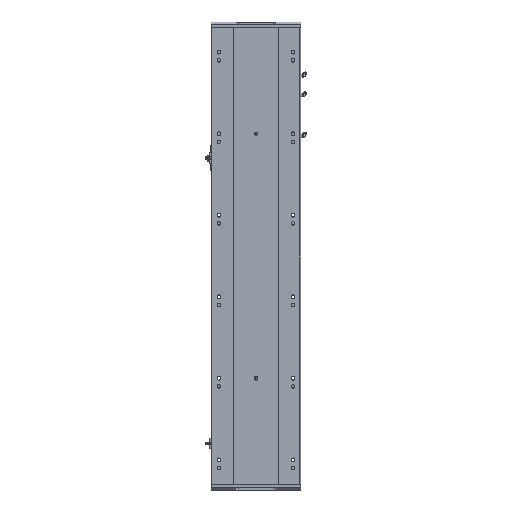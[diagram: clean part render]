
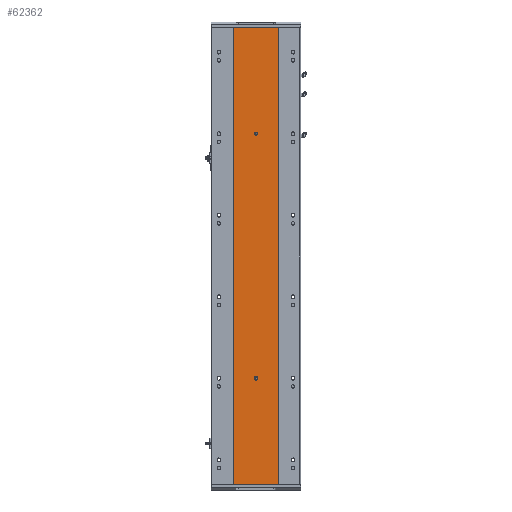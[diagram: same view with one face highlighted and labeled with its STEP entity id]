
A CAD part, front view. The second image highlights one B-rep face of the part: STEP entity #62362.
In plain terms, the highlighted planar face has unit normal (0, -1, 0).
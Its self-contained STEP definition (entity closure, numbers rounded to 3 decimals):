
#7661 = EDGE_LOOP ( 'NONE', ( #147909, #429553, #92586, #47038 ) ) ;
#7694 = VERTEX_POINT ( 'NONE', #138952 ) ;
#8882 = DIRECTION ( 'NONE',  ( 0., 0., -1. ) ) ;
#9765 = EDGE_CURVE ( 'NONE', #385141, #220690, #118551, .T. ) ;
#9941 = VERTEX_POINT ( 'NONE', #423840 ) ;
#12431 = EDGE_CURVE ( 'NONE', #124375, #9941, #181986, .T. ) ;
#24008 = VECTOR ( 'NONE', #139614, 1000. ) ;
#25921 = CARTESIAN_POINT ( 'NONE',  ( 0., 0., 261. ) ) ;
#28853 = DIRECTION ( 'NONE',  ( 0., 0., 1. ) ) ;
#34685 = LINE ( 'NONE', #74253, #24008 ) ;
#36047 = AXIS2_PLACEMENT_3D ( 'NONE', #313228, #378644, #212266 ) ;
#45364 = PLANE ( 'NONE',  #85865 ) ;
#47038 = ORIENTED_EDGE ( 'NONE', *, *, #205541, .T. ) ;
#60331 = ORIENTED_EDGE ( 'NONE', *, *, #12431, .T. ) ;
#62362 = ADVANCED_FACE ( 'NONE', ( #412549, #290273, #93862 ), #45364, .F. ) ;
#62529 = VECTOR ( 'NONE', #8882, 1000. ) ;
#69181 = EDGE_CURVE ( 'NONE', #328764, #284211, #34685, .T. ) ;
#69853 = CIRCLE ( 'NONE', #92990, 4. ) ;
#72901 = AXIS2_PLACEMENT_3D ( 'NONE', #284291, #287232, #253077 ) ;
#74253 = CARTESIAN_POINT ( 'NONE',  ( 0., 0., 1120. ) ) ;
#78951 = CARTESIAN_POINT ( 'NONE',  ( 55., 0., 1120. ) ) ;
#81894 = CARTESIAN_POINT ( 'NONE',  ( -55., 0., 1120. ) ) ;
#85865 = AXIS2_PLACEMENT_3D ( 'NONE', #418045, #314117, #317056 ) ;
#88983 = CARTESIAN_POINT ( 'NONE',  ( 0., 0., 0. ) ) ;
#91372 = CARTESIAN_POINT ( 'NONE',  ( 4., 0., 261. ) ) ;
#92586 = ORIENTED_EDGE ( 'NONE', *, *, #69181, .F. ) ;
#92990 = AXIS2_PLACEMENT_3D ( 'NONE', #25921, #336158, #28853 ) ;
#93827 = ORIENTED_EDGE ( 'NONE', *, *, #413306, .T. ) ;
#93862 = FACE_OUTER_BOUND ( 'NONE', #7661, .T. ) ;
#97379 = VERTEX_POINT ( 'NONE', #340925 ) ;
#102272 = VERTEX_POINT ( 'NONE', #142973 ) ;
#110856 = CARTESIAN_POINT ( 'NONE',  ( 55., 0., 1120. ) ) ;
#113092 = CARTESIAN_POINT ( 'NONE',  ( 0., 0., 856. ) ) ;
#118551 = CIRCLE ( 'NONE', #72901, 4. ) ;
#119645 = EDGE_CURVE ( 'NONE', #294694, #97379, #232949, .T. ) ;
#123685 = CARTESIAN_POINT ( 'NONE',  ( 0., 0., 860. ) ) ;
#124375 = VERTEX_POINT ( 'NONE', #91372 ) ;
#135520 = DIRECTION ( 'NONE',  ( 0., 0., -1. ) ) ;
#138952 = CARTESIAN_POINT ( 'NONE',  ( -4., 0., 259. ) ) ;
#139614 = DIRECTION ( 'NONE',  ( 1., 0., 0. ) ) ;
#139883 = CARTESIAN_POINT ( 'NONE',  ( 4., 0., 1120. ) ) ;
#142973 = CARTESIAN_POINT ( 'NONE',  ( -4., 0., 261. ) ) ;
#146481 = ORIENTED_EDGE ( 'NONE', *, *, #9765, .F. ) ;
#147909 = ORIENTED_EDGE ( 'NONE', *, *, #119645, .T. ) ;
#155791 = DIRECTION ( 'NONE',  ( 1., 0., 0. ) ) ;
#157809 = DIRECTION ( 'NONE',  ( 0., -1., 0. ) ) ;
#163870 = ORIENTED_EDGE ( 'NONE', *, *, #205614, .T. ) ;
#173329 = ORIENTED_EDGE ( 'NONE', *, *, #198304, .T. ) ;
#178130 = EDGE_CURVE ( 'NONE', #220690, #385141, #406444, .T. ) ;
#181912 = DIRECTION ( 'NONE',  ( 0., 0., 1. ) ) ;
#181986 = LINE ( 'NONE', #139883, #203340 ) ;
#198304 = EDGE_CURVE ( 'NONE', #7694, #102272, #221801, .T. ) ;
#203340 = VECTOR ( 'NONE', #135520, 1000. ) ;
#204412 = CARTESIAN_POINT ( 'NONE',  ( -4., 0., 1120. ) ) ;
#205541 = EDGE_CURVE ( 'NONE', #328764, #294694, #417784, .T. ) ;
#205614 = EDGE_CURVE ( 'NONE', #9941, #7694, #221877, .T. ) ;
#212266 = DIRECTION ( 'NONE',  ( 0., 0., 1. ) ) ;
#220690 = VERTEX_POINT ( 'NONE', #113092 ) ;
#221801 = LINE ( 'NONE', #204412, #258858 ) ;
#221877 = CIRCLE ( 'NONE', #36047, 4. ) ;
#232949 = LINE ( 'NONE', #88983, #381639 ) ;
#244940 = EDGE_LOOP ( 'NONE', ( #173329, #93827, #60331, #163870 ) ) ;
#253077 = DIRECTION ( 'NONE',  ( 0., 0., -1. ) ) ;
#258858 = VECTOR ( 'NONE', #181912, 1000. ) ;
#264030 = ORIENTED_EDGE ( 'NONE', *, *, #178130, .F. ) ;
#276159 = CARTESIAN_POINT ( 'NONE',  ( -55., 0., 1120. ) ) ;
#284211 = VERTEX_POINT ( 'NONE', #78951 ) ;
#284291 = CARTESIAN_POINT ( 'NONE',  ( 0., 0., 860. ) ) ;
#287232 = DIRECTION ( 'NONE',  ( 0., -1., 0. ) ) ;
#290273 = FACE_BOUND ( 'NONE', #244940, .T. ) ;
#294694 = VERTEX_POINT ( 'NONE', #373819 ) ;
#299465 = AXIS2_PLACEMENT_3D ( 'NONE', #123685, #157809, #395414 ) ;
#313228 = CARTESIAN_POINT ( 'NONE',  ( 0., 0., 259. ) ) ;
#314117 = DIRECTION ( 'NONE',  ( 0., 1., 0. ) ) ;
#317056 = DIRECTION ( 'NONE',  ( 0., 0., 1. ) ) ;
#317128 = EDGE_LOOP ( 'NONE', ( #264030, #146481 ) ) ;
#328764 = VERTEX_POINT ( 'NONE', #81894 ) ;
#336158 = DIRECTION ( 'NONE',  ( 0., 1., 0. ) ) ;
#340925 = CARTESIAN_POINT ( 'NONE',  ( 55., 0., 0. ) ) ;
#344648 = LINE ( 'NONE', #110856, #397945 ) ;
#352843 = DIRECTION ( 'NONE',  ( 0., 0., -1. ) ) ;
#373819 = CARTESIAN_POINT ( 'NONE',  ( -55., 0., 0. ) ) ;
#378644 = DIRECTION ( 'NONE',  ( 0., 1., 0. ) ) ;
#381639 = VECTOR ( 'NONE', #155791, 1000. ) ;
#385141 = VERTEX_POINT ( 'NONE', #412757 ) ;
#395414 = DIRECTION ( 'NONE',  ( 0., 0., -1. ) ) ;
#397945 = VECTOR ( 'NONE', #352843, 1000. ) ;
#406444 = CIRCLE ( 'NONE', #299465, 4. ) ;
#412549 = FACE_BOUND ( 'NONE', #317128, .T. ) ;
#412757 = CARTESIAN_POINT ( 'NONE',  ( 0., 0., 864. ) ) ;
#413306 = EDGE_CURVE ( 'NONE', #102272, #124375, #69853, .T. ) ;
#417784 = LINE ( 'NONE', #276159, #62529 ) ;
#418045 = CARTESIAN_POINT ( 'NONE',  ( 0., 0., 1120. ) ) ;
#423840 = CARTESIAN_POINT ( 'NONE',  ( 4., 0., 259. ) ) ;
#425396 = EDGE_CURVE ( 'NONE', #284211, #97379, #344648, .T. ) ;
#429553 = ORIENTED_EDGE ( 'NONE', *, *, #425396, .F. ) ;
